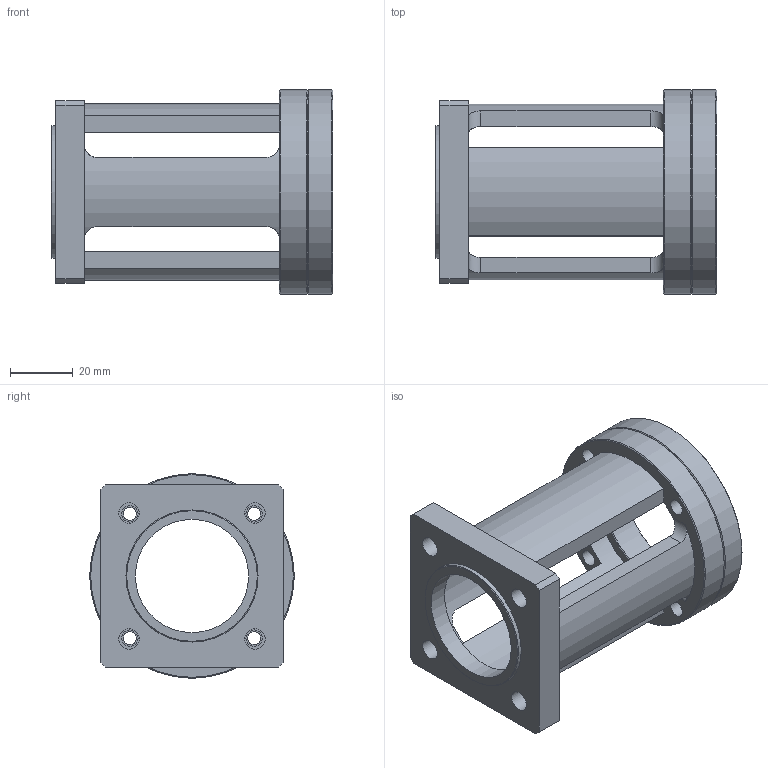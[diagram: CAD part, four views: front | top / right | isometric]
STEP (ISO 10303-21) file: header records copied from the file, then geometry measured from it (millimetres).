
FILE_DESCRIPTION((''),'2;1');
FILE_NAME('S:\UNI MOTION LINEARNE ENOTE\LINEARNE ENOTE\POSEBNE IZVEDBE\122 TRANSTECHNIK MTJ65 VMESNIK ZA MP060\VK MTJ MPO60 GESM 19 24.stp','2011-05-24T10:19:55',('pgrilc'),(''),'Autodesk Inventor 2011','Autodesk Inventor 2011','');
FILE_SCHEMA(('AUTOMOTIVE_DESIGN { 1 0 10303 214 1 1 1 1 }'));
Length unit declared in the file: millimetre
Products named in the file (3): VK MTJ MPO60 GESM 19 24; VMESNIK MTJ65 MP060 GESM19 24; PLOŠČA VMESNIKA MTJ65 MP060 19 24
Assembly tree (2 placements, depth 2):
  VK MTJ MPO60 GESM 19 24
    VMESNIK MTJ65 MP060 GESM19 24
    PLOŠČA VMESNIKA MTJ65 MP060 19 24
Bounding box: 89.5 x 65 x 65 mm (x, y, z)
Volume: 74926.7 mm3; surface area: 38170.5 mm2
Topology: 2 solids, 2 shells, 83 faces, 241 edges, 163 vertices
Faces by surface type: cylinder 46, plane 25, cone 12
Full cylindrical faces by diameter (mm): 4.134 x4, 5.2 x4, 5.5 x4, 6.5 x4, 10 x4, 36 x1, 40 x1, 42 x1, 47 x1, 65 x2
Entity records: 2740 total; most frequent: CARTESIAN_POINT 588, DIRECTION 440, ORIENTED_EDGE 376, AXIS2_PLACEMENT_3D 188, EDGE_CURVE 188, EDGE_LOOP 162, VERTEX_POINT 144, CIRCLE 100
